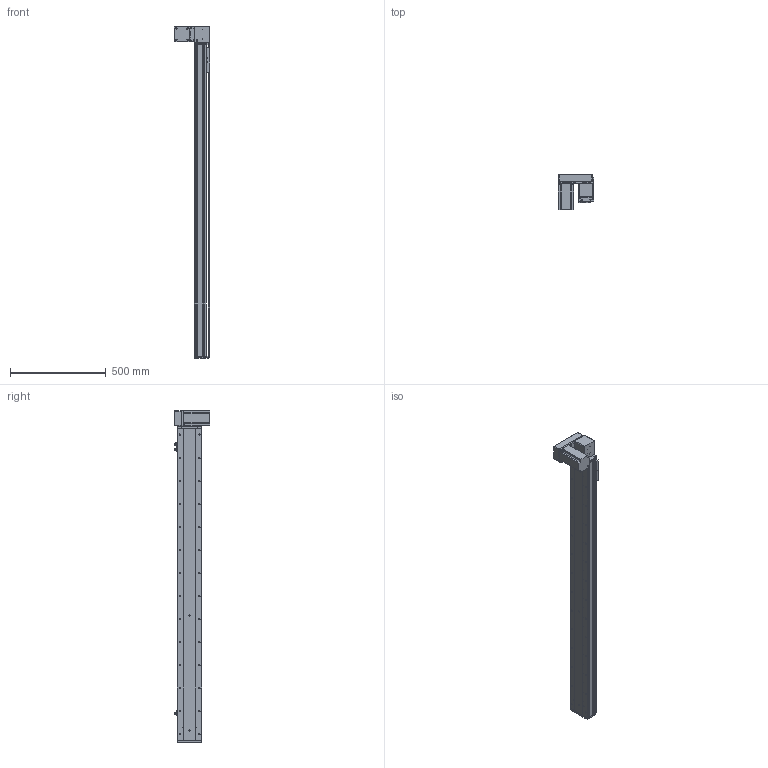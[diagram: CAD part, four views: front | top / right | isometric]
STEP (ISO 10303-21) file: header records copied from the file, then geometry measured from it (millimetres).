
FILE_DESCRIPTION (( 'STEP AP214' ), '1' );
FILE_NAME ('KSD130B-S1400-MRD-CM.STEP', '2019-09-23T01:53:06', ( '微软用户' ), ( '微软中国' ), 'SwSTEP 2.0', 'SolidWorks 2014', '' );
FILE_SCHEMA (( 'AUTOMOTIVE_DESIGN' ));
Length unit declared in the file: millimetre
Products named in the file (12): 130宽模组保护罩上下左右折-同步带; 台达ECMA－C20807AS伺服电机; 130宽模组马达安装板连板上下折丝杆同步带; 覜茼え100遵圉猾敕; U倰嫖萇EEㄜSX672; 130宽盖板半封闭同步带-1400行程; 130宽马达安装板同步带右-改镜向_默认<按加工>; 130宽马达安装板同步带半封闭; 130宽同步带安装座半封闭; 130宽端盖同步带半封闭; 130宽底板半封闭同步带-1400行程; KSD130B-S1400-MRD-CM
Assembly tree (13 placements, depth 2):
  KSD130B-S1400-MRD-CM
    130宽底板半封闭同步带-1400行程
    130宽端盖同步带半封闭
    130宽同步带安装座半封闭
    130宽马达安装板同步带半封闭
    130宽马达安装板同步带右-改镜向_默认<按加工>
    130宽盖板半封闭同步带-1400行程
    U倰嫖萇EEㄜSX672  x3
    覜茼え100遵圉猾敕
    130宽模组马达安装板连板上下折丝杆同步带
    台达ECMA－C20807AS伺服电机
    130宽模组保护罩上下左右折-同步带
Bounding box: 186 x 184.8 x 1733 mm (x, y, z)
Volume: 6044913.5 mm3; surface area: 1687734.9 mm2
Topology: 14 solids, 14 shells, 1637 faces, 4725 edges, 3001 vertices
Faces by surface type: cylinder 796, plane 638, cone 203
Entity records: 54927 total; most frequent: CARTESIAN_POINT 10426, DIRECTION 8319, ORIENTED_EDGE 8030, EDGE_CURVE 4015, AXIS2_PLACEMENT_3D 3054, VERTEX_POINT 2625, LINE 2211, VECTOR 2211
